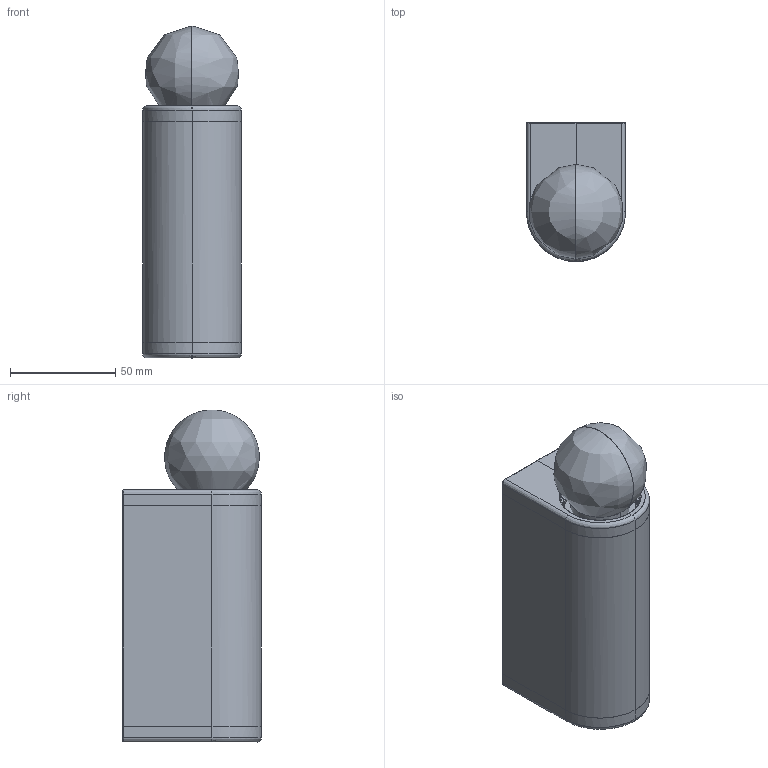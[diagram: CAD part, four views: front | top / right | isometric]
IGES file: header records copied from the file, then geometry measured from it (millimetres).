
Start section: Use this template file for building objects the size of a truck or smaller, and for objects which must be built to manufacturing tolerances. Units: Millimeters Absolute tolerance: .001 mm
Global section: file name: /Volumes/Company/WIP/Marlen/WFH/Website/SALES 3D/WPS/MA_WPS_D3_3D_2018/MA_White Porcelain Series D3_240V_2017.igs; preprocessor: Trout Lake IGES 012 Dec  4 2019; date: 201202.120435; units: millimetre
Bounding box: 47 x 66 x 157.98 mm (x, y, z)
Surface area: 43978.1 mm2 (no closed solid volume)
Topology: 0 solids, 0 shells, 121 faces, 905 edges, 901 vertices
Faces by surface type: bspline 121
